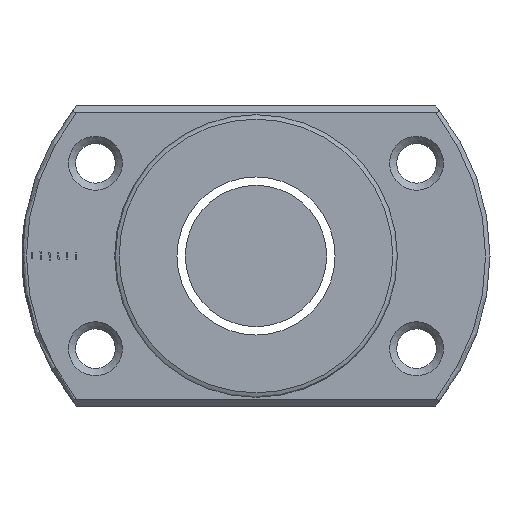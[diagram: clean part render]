
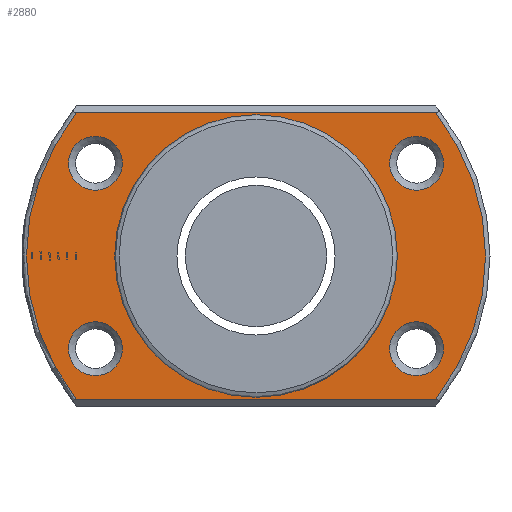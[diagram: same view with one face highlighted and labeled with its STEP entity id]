
A CAD part, left-side view. The second image highlights one B-rep face of the part: STEP entity #2880.
In plain terms, the highlighted planar face has unit normal (-1, 0, 0).
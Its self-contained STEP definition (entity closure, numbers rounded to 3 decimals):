
#36 = EDGE_CURVE ( 'NONE', #262, #262, #1571, .T. ) ;
#51 = LINE ( 'NONE', #678, #1666 ) ;
#98 = EDGE_CURVE ( 'NONE', #1989, #1469, #51, .T. ) ;
#112 = ORIENTED_EDGE ( 'NONE', *, *, #477, .T. ) ;
#127 = DIRECTION ( 'NONE',  ( 0., 0., 1. ) ) ;
#149 = CIRCLE ( 'NONE', #1217, 16. ) ;
#173 = ORIENTED_EDGE ( 'NONE', *, *, #2304, .T. ) ;
#198 = CARTESIAN_POINT ( 'NONE',  ( -50.9, -20.336, 16.2 ) ) ;
#262 = VERTEX_POINT ( 'NONE', #958 ) ;
#286 = CARTESIAN_POINT ( 'NONE',  ( -50.9, 0., 0. ) ) ;
#401 = ORIENTED_EDGE ( 'NONE', *, *, #36, .T. ) ;
#477 = EDGE_CURVE ( 'NONE', #1503, #1503, #149, .T. ) ;
#481 = CARTESIAN_POINT ( 'NONE',  ( -50.9, 26.5, 16.2 ) ) ;
#512 = DIRECTION ( 'NONE',  ( 1., 0., 0. ) ) ;
#555 = FACE_BOUND ( 'NONE', #1300, .T. ) ;
#569 = DIRECTION ( 'NONE',  ( -1., 0., 0. ) ) ;
#570 = VERTEX_POINT ( 'NONE', #2040 ) ;
#582 = CARTESIAN_POINT ( 'NONE',  ( -50.9, -18.187, -10.5 ) ) ;
#604 = DIRECTION ( 'NONE',  ( 0., 0., 1. ) ) ;
#615 = ORIENTED_EDGE ( 'NONE', *, *, #1493, .T. ) ;
#641 = CIRCLE ( 'NONE', #883, 3.05 ) ;
#678 = CARTESIAN_POINT ( 'NONE',  ( -50.9, 26.5, -16.2 ) ) ;
#741 = DIRECTION ( 'NONE',  ( 0., 1., 0. ) ) ;
#744 = DIRECTION ( 'NONE',  ( -1., 0., 0. ) ) ;
#758 = FACE_BOUND ( 'NONE', #2948, .T. ) ;
#765 = VERTEX_POINT ( 'NONE', #2482 ) ;
#781 = CIRCLE ( 'NONE', #2357, 3.05 ) ;
#784 = AXIS2_PLACEMENT_3D ( 'NONE', #2674, #569, #604 ) ;
#824 = EDGE_LOOP ( 'NONE', ( #848 ) ) ;
#846 = EDGE_LOOP ( 'NONE', ( #2291, #173, #1939, #1134 ) ) ;
#848 = ORIENTED_EDGE ( 'NONE', *, *, #2114, .T. ) ;
#874 = ORIENTED_EDGE ( 'NONE', *, *, #2238, .T. ) ;
#883 = AXIS2_PLACEMENT_3D ( 'NONE', #1099, #2044, #1084 ) ;
#917 = DIRECTION ( 'NONE',  ( 0., -1., 0. ) ) ;
#958 = CARTESIAN_POINT ( 'NONE',  ( -50.9, 18.187, -7.45 ) ) ;
#985 = FACE_BOUND ( 'NONE', #2278, .T. ) ;
#1070 = CARTESIAN_POINT ( 'NONE',  ( -50.9, 20.336, -16.2 ) ) ;
#1084 = DIRECTION ( 'NONE',  ( 0., 0., 1. ) ) ;
#1095 = VERTEX_POINT ( 'NONE', #1307 ) ;
#1099 = CARTESIAN_POINT ( 'NONE',  ( -50.9, 18.187, 10.5 ) ) ;
#1125 = VECTOR ( 'NONE', #741, 1000. ) ;
#1128 = AXIS2_PLACEMENT_3D ( 'NONE', #2885, #1283, #127 ) ;
#1134 = ORIENTED_EDGE ( 'NONE', *, *, #2886, .T. ) ;
#1188 = DIRECTION ( 'NONE',  ( 0., 0., 1. ) ) ;
#1201 = FACE_OUTER_BOUND ( 'NONE', #846, .T. ) ;
#1217 = AXIS2_PLACEMENT_3D ( 'NONE', #2389, #512, #1949 ) ;
#1230 = FACE_BOUND ( 'NONE', #1348, .T. ) ;
#1248 = EDGE_CURVE ( 'NONE', #2703, #765, #2186, .T. ) ;
#1283 = DIRECTION ( 'NONE',  ( 1., 0., 0. ) ) ;
#1300 = EDGE_LOOP ( 'NONE', ( #112 ) ) ;
#1307 = CARTESIAN_POINT ( 'NONE',  ( -50.9, 18.187, 13.55 ) ) ;
#1317 = AXIS2_PLACEMENT_3D ( 'NONE', #1676, #1893, #2091 ) ;
#1348 = EDGE_LOOP ( 'NONE', ( #401 ) ) ;
#1436 = CARTESIAN_POINT ( 'NONE',  ( -50.9, 26.5, 0. ) ) ;
#1469 = VERTEX_POINT ( 'NONE', #2005 ) ;
#1476 = DIRECTION ( 'NONE',  ( 0., 0., 1. ) ) ;
#1493 = EDGE_CURVE ( 'NONE', #570, #570, #781, .T. ) ;
#1503 = VERTEX_POINT ( 'NONE', #2739 ) ;
#1525 = VERTEX_POINT ( 'NONE', #2444 ) ;
#1571 = CIRCLE ( 'NONE', #1317, 3.05 ) ;
#1666 = VECTOR ( 'NONE', #917, 1000. ) ;
#1676 = CARTESIAN_POINT ( 'NONE',  ( -50.9, 18.187, -10.5 ) ) ;
#1696 = FACE_BOUND ( 'NONE', #824, .T. ) ;
#1720 = DIRECTION ( 'NONE',  ( 1., 0., 0. ) ) ;
#1817 = AXIS2_PLACEMENT_3D ( 'NONE', #286, #744, #1476 ) ;
#1893 = DIRECTION ( 'NONE',  ( 1., 0., 0. ) ) ;
#1939 = ORIENTED_EDGE ( 'NONE', *, *, #1248, .T. ) ;
#1949 = DIRECTION ( 'NONE',  ( 0., 0., -1. ) ) ;
#1977 = DIRECTION ( 'NONE',  ( 0., 0., 1. ) ) ;
#1989 = VERTEX_POINT ( 'NONE', #1070 ) ;
#2005 = CARTESIAN_POINT ( 'NONE',  ( -50.9, -20.336, -16.2 ) ) ;
#2040 = CARTESIAN_POINT ( 'NONE',  ( -50.9, -18.187, -7.45 ) ) ;
#2044 = DIRECTION ( 'NONE',  ( 1., 0., 0. ) ) ;
#2091 = DIRECTION ( 'NONE',  ( 0., 0., 1. ) ) ;
#2114 = EDGE_CURVE ( 'NONE', #1525, #1525, #2453, .T. ) ;
#2186 = LINE ( 'NONE', #481, #1125 ) ;
#2238 = EDGE_CURVE ( 'NONE', #1095, #1095, #641, .T. ) ;
#2262 = AXIS2_PLACEMENT_3D ( 'NONE', #1436, #2851, #1188 ) ;
#2278 = EDGE_LOOP ( 'NONE', ( #874 ) ) ;
#2291 = ORIENTED_EDGE ( 'NONE', *, *, #98, .T. ) ;
#2304 = EDGE_CURVE ( 'NONE', #1469, #2703, #2848, .T. ) ;
#2357 = AXIS2_PLACEMENT_3D ( 'NONE', #582, #1720, #1977 ) ;
#2389 = CARTESIAN_POINT ( 'NONE',  ( -50.9, 0., 0. ) ) ;
#2444 = CARTESIAN_POINT ( 'NONE',  ( -50.9, -18.187, 13.55 ) ) ;
#2453 = CIRCLE ( 'NONE', #1128, 3.05 ) ;
#2482 = CARTESIAN_POINT ( 'NONE',  ( -50.9, 20.336, 16.2 ) ) ;
#2631 = PLANE ( 'NONE',  #2262 ) ;
#2674 = CARTESIAN_POINT ( 'NONE',  ( -50.9, 0., 0. ) ) ;
#2703 = VERTEX_POINT ( 'NONE', #198 ) ;
#2739 = CARTESIAN_POINT ( 'NONE',  ( -50.9, 0., -16. ) ) ;
#2749 = CIRCLE ( 'NONE', #1817, 26. ) ;
#2848 = CIRCLE ( 'NONE', #784, 26. ) ;
#2851 = DIRECTION ( 'NONE',  ( -1., 0., 0. ) ) ;
#2880 = ADVANCED_FACE ( 'NONE', ( #1230, #758, #1696, #985, #555, #1201 ), #2631, .T. ) ;
#2885 = CARTESIAN_POINT ( 'NONE',  ( -50.9, -18.187, 10.5 ) ) ;
#2886 = EDGE_CURVE ( 'NONE', #765, #1989, #2749, .T. ) ;
#2948 = EDGE_LOOP ( 'NONE', ( #615 ) ) ;
